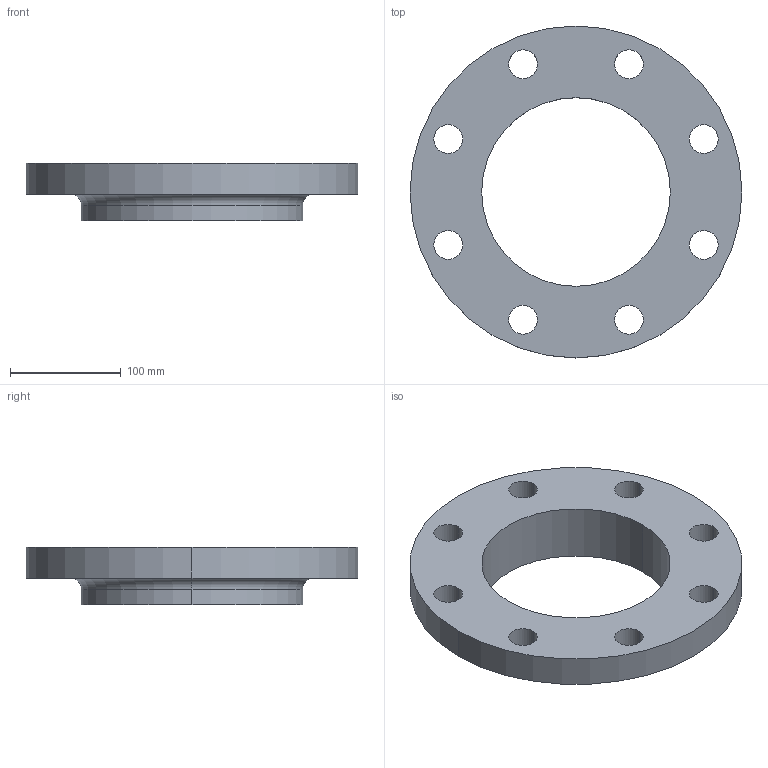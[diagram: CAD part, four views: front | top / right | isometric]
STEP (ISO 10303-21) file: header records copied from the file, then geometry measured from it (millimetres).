
FILE_DESCRIPTION (( 'STEP AP214' ), '1' );
FILE_NAME ('PN40 DN150 Type 12 - Type A Face.STEP', '2019-01-04T22:01:19', ( '' ), ( '' ), 'SwSTEP 2.0', 'SolidWorks 2019', '' );
FILE_SCHEMA (( 'AUTOMOTIVE_DESIGN' ));
Length unit declared in the file: millimetre
Products named in the file (1): PN40 DN150 Type 12 - Type A Face
Bounding box: 300 x 300 x 52 mm (x, y, z)
Volume: 1440793 mm3; surface area: 172180.1 mm2
Topology: 1 solids, 1 shells, 27 faces, 70 edges, 46 vertices
Faces by surface type: cylinder 22, plane 3, torus 2
Entity records: 926 total; most frequent: DIRECTION 174, CARTESIAN_POINT 144, ORIENTED_EDGE 140, AXIS2_PLACEMENT_3D 76, EDGE_CURVE 70, CIRCLE 48, VERTEX_POINT 46, EDGE_LOOP 46
